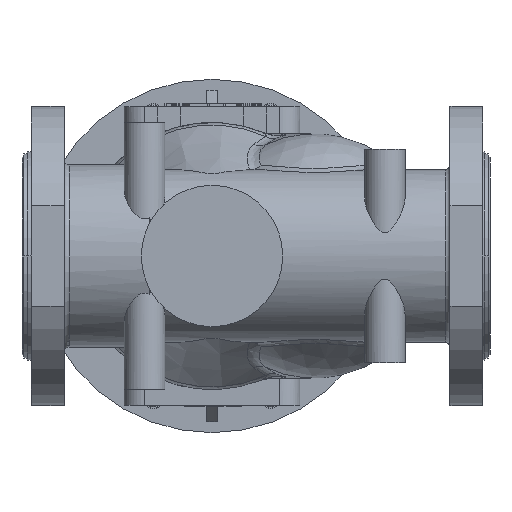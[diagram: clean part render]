
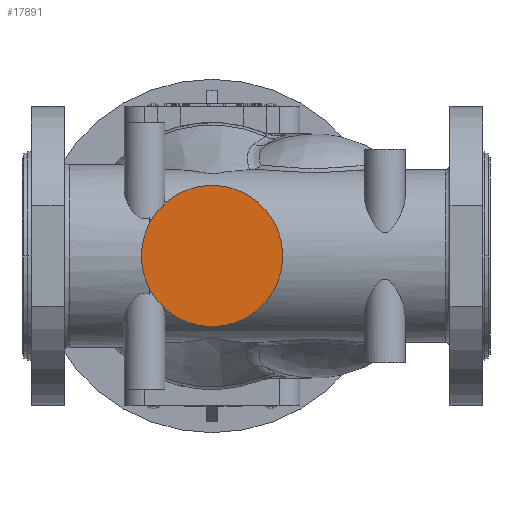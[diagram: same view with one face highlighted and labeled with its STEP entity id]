
A CAD part, front view. The second image highlights one B-rep face of the part: STEP entity #17891.
In plain terms, the highlighted planar face has unit normal (0, -1, 0).
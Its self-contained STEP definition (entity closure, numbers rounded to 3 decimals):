
#3440=CARTESIAN_POINT('',(0.,-90.,0.));
#3441=DIRECTION('',(0.,1.,0.));
#3442=DIRECTION('',(-1.,0.,0.));
#3443=AXIS2_PLACEMENT_3D('',#3440,#3441,#3442);
#3445=CARTESIAN_POINT('',(0.,-90.,0.));
#3446=DIRECTION('',(0.,-1.,0.));
#3447=DIRECTION('',(-1.,0.,0.));
#3448=AXIS2_PLACEMENT_3D('',#3445,#3446,#3447);
#11167=CARTESIAN_POINT('',(-45.,-90.,0.));
#11168=VERTEX_POINT('',#11167);
#11177=CARTESIAN_POINT('',(45.,-90.,0.));
#11178=VERTEX_POINT('',#11177);
#17882=CARTESIAN_POINT('',(0.,-90.,0.));
#17883=DIRECTION('',(0.,-1.,0.));
#17884=DIRECTION('',(-1.,0.,0.));
#17885=AXIS2_PLACEMENT_3D('',#17882,#17883,#17884);
#17886=PLANE('',#17885);
#17887=ORIENTED_EDGE('',*,*,#17864,.T.);
#17888=ORIENTED_EDGE('',*,*,#17875,.F.);
#17889=EDGE_LOOP('',(#17887,#17888));
#17890=FACE_OUTER_BOUND('',#17889,.F.);
#17891=ADVANCED_FACE('',(#17890),#17886,.T.);
#3444=CIRCLE('',#3443,45.);
#3449=CIRCLE('',#3448,45.);
#17864=EDGE_CURVE('',#11168,#11178,#3444,.T.);
#17875=EDGE_CURVE('',#11168,#11178,#3449,.T.);
